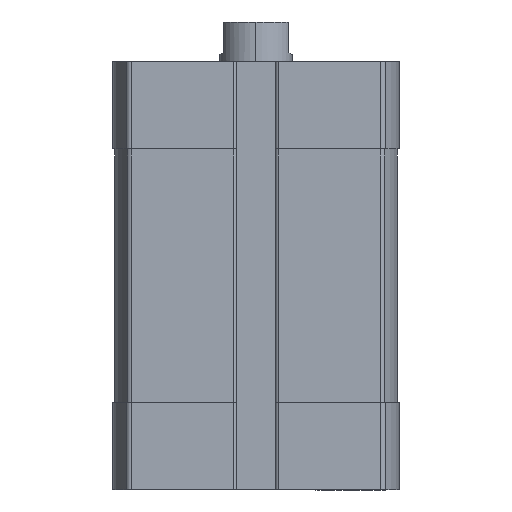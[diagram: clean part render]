
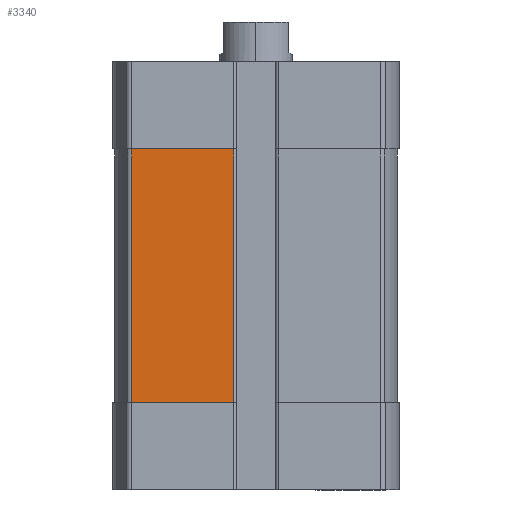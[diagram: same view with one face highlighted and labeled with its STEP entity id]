
A CAD part, left-side view. The second image highlights one B-rep face of the part: STEP entity #3340.
In plain terms, the highlighted planar face has unit normal (-1, 0, 0).
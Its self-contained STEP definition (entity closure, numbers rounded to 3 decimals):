
#9 = AXIS2_PLACEMENT_3D ( 'NONE', #2139, #4200, #11284 ) ;
#234 = CARTESIAN_POINT ( 'NONE',  ( -19.5, 17.091, -47. ) ) ;
#437 = CARTESIAN_POINT ( 'NONE',  ( -19.5, 17.091, -12. ) ) ;
#889 = VECTOR ( 'NONE', #6947, 1000. ) ;
#1121 = VECTOR ( 'NONE', #2597, 1000. ) ;
#1246 = FACE_OUTER_BOUND ( 'NONE', #2352, .T. ) ;
#1247 = ORIENTED_EDGE ( 'NONE', *, *, #7877, .T. ) ;
#1707 = CARTESIAN_POINT ( 'NONE',  ( -19.5, 3.1, -12. ) ) ;
#2135 = EDGE_CURVE ( 'NONE', #10194, #11394, #7834, .T. ) ;
#2139 = CARTESIAN_POINT ( 'NONE',  ( -19.5, 17.091, -47. ) ) ;
#2222 = EDGE_CURVE ( 'NONE', #3994, #10194, #9243, .T. ) ;
#2352 = EDGE_LOOP ( 'NONE', ( #3638, #8728, #1247, #8311 ) ) ;
#2597 = DIRECTION ( 'NONE',  ( 0., -1., 0. ) ) ;
#3184 = PLANE ( 'NONE',  #9 ) ;
#3340 = ADVANCED_FACE ( 'NONE', ( #1246 ), #3184, .T. ) ;
#3633 = LINE ( 'NONE', #3873, #889 ) ;
#3638 = ORIENTED_EDGE ( 'NONE', *, *, #2222, .T. ) ;
#3873 = CARTESIAN_POINT ( 'NONE',  ( -19.5, 0., -12. ) ) ;
#3994 = VERTEX_POINT ( 'NONE', #7301 ) ;
#4151 = VECTOR ( 'NONE', #6372, 1000. ) ;
#4200 = DIRECTION ( 'NONE',  ( -1., 0., 0. ) ) ;
#5935 = VERTEX_POINT ( 'NONE', #437 ) ;
#6372 = DIRECTION ( 'NONE',  ( 0., 0., -1. ) ) ;
#6851 = LINE ( 'NONE', #234, #4151 ) ;
#6947 = DIRECTION ( 'NONE',  ( 0., 1., 0. ) ) ;
#7301 = CARTESIAN_POINT ( 'NONE',  ( -19.5, 17.091, -47. ) ) ;
#7834 = LINE ( 'NONE', #8737, #9865 ) ;
#7877 = EDGE_CURVE ( 'NONE', #11394, #5935, #3633, .T. ) ;
#8311 = ORIENTED_EDGE ( 'NONE', *, *, #10317, .T. ) ;
#8728 = ORIENTED_EDGE ( 'NONE', *, *, #2135, .T. ) ;
#8737 = CARTESIAN_POINT ( 'NONE',  ( -19.5, 3.1, -47. ) ) ;
#9243 = LINE ( 'NONE', #10681, #1121 ) ;
#9736 = DIRECTION ( 'NONE',  ( 0., 0., 1. ) ) ;
#9865 = VECTOR ( 'NONE', #9736, 1000. ) ;
#10194 = VERTEX_POINT ( 'NONE', #11062 ) ;
#10317 = EDGE_CURVE ( 'NONE', #5935, #3994, #6851, .T. ) ;
#10681 = CARTESIAN_POINT ( 'NONE',  ( -19.5, 17.091, -47. ) ) ;
#11062 = CARTESIAN_POINT ( 'NONE',  ( -19.5, 3.1, -47. ) ) ;
#11284 = DIRECTION ( 'NONE',  ( 0., 0., 1. ) ) ;
#11394 = VERTEX_POINT ( 'NONE', #1707 ) ;
